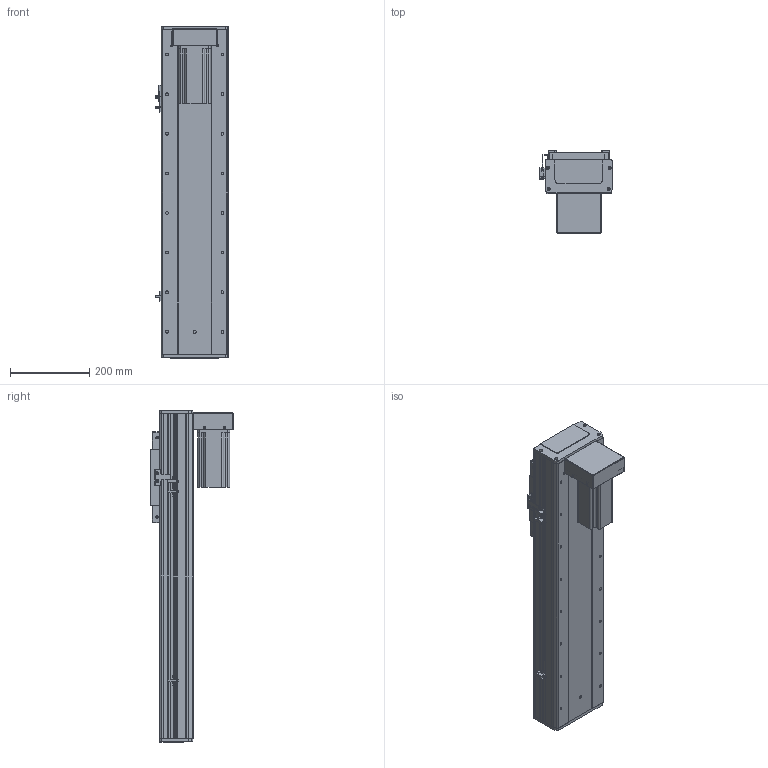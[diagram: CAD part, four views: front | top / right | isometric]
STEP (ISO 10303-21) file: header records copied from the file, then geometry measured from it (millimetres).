
FILE_DESCRIPTION (( 'STEP AP203' ), '1' );
FILE_NAME ('RY170F-L2010-300-BK.SLDASM_500.step', '2021-03-02T08:55:49', ( '盈信电脑' ), ( '东莞市道滘镇水果街19号' ), 'SwSTEP 2.0', 'SolidWorks 2012', '' );
FILE_SCHEMA (( 'CONFIG_CONTROL_DESIGN' ));
Length unit declared in the file: millimetre
Products named in the file (20): RY170F-L2010-300-BK.SLDASM_500; RY170狟殏詩湍假蚾輸; RY170F狟殏萇儂欶; 怢湛750W萇儂ㄗ80遺ㄘ; RY170F-詩湍揤踡輸; 侐源滅袉蝶; RY170F-狟殏萇儂假蚾啣(750W); 滅袉蝶18-24; RY170F俋离覜茼え; RY170F-揤踡謫假蚾粣; RY170F-綴裔啣; 覜茼ん672; RY100F-詩湍揤踡謫; RY170F-丝杆铝滑块连接板; RY170F-佪裝臏賑輸20蹟譫; 滅袉蝶18-10; RY170F-300眻蟀倰第菁釱-BK_500; RY170F-300眻蟀倰第奻裔啣-BK_500; RY170F-滅鳥奻裔; RY170F-300眻蟀祥凄詩湍-MK_500
Assembly tree (25 placements, depth 2):
  RY170F-L2010-300-BK.SLDASM_500
    RY170F-300眻蟀祥凄詩湍-MK_500
    RY170F-300眻蟀倰第奻裔啣-BK_500  x2
    RY170F-滅鳥奻裔
    RY170F-300眻蟀倰第菁釱-BK_500
    RY170F-佪裝臏賑輸20蹟譫
    RY170F-丝杆铝滑块连接板
    滅袉蝶18-10
    RY100F-詩湍揤踡謫
    RY170F-綴裔啣  x2
    覜茼ん672  x3
    RY170F俋离覜茼え
    RY170F-揤踡謫假蚾粣
    RY170F-詩湍揤踡輸  x2
    滅袉蝶18-24
    侐源滅袉蝶  x2
    RY170F-狟殏萇儂假蚾啣(750W)
    怢湛750W萇儂ㄗ80遺ㄘ
    RY170F狟殏萇儂欶
    RY170狟殏詩湍假蚾輸
Bounding box: 183.7 x 208 x 838 mm (x, y, z)
Volume: 5463280.5 mm3; surface area: 1730593.1 mm2
Topology: 25 solids, 25 shells, 1818 faces, 5033 edges, 3202 vertices
Faces by surface type: cylinder 860, plane 762, cone 192, bspline 4
Entity records: 50776 total; most frequent: CARTESIAN_POINT 10158, DIRECTION 8218, ORIENTED_EDGE 7838, EDGE_CURVE 3919, AXIS2_PLACEMENT_3D 2958, VERTEX_POINT 2558, LINE 2302, VECTOR 2302
